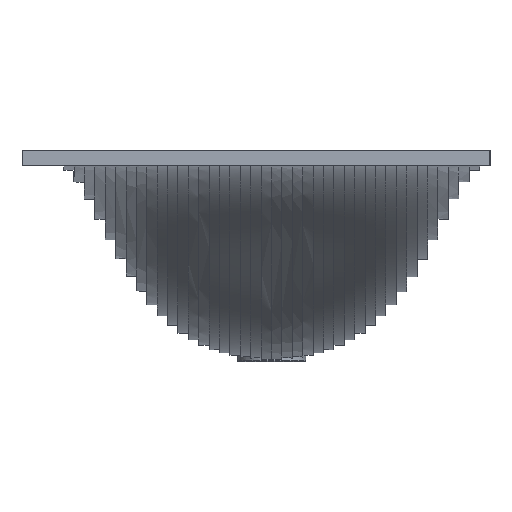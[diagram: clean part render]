
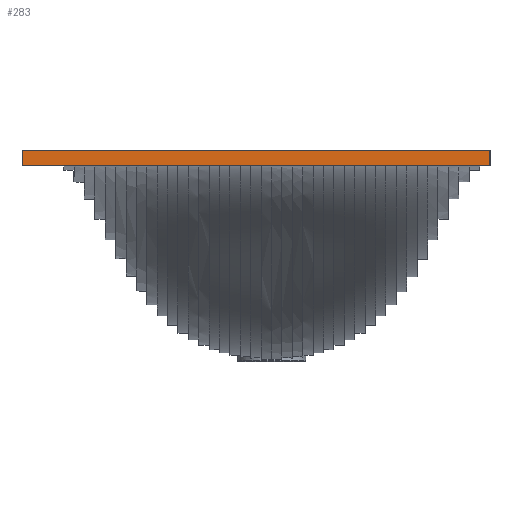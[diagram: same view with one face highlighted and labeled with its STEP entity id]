
A CAD part, left-side view. The second image highlights one B-rep face of the part: STEP entity #283.
In plain terms, the highlighted planar face has unit normal (-1, 0, 0).
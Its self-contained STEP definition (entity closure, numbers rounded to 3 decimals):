
#283=ADVANCED_FACE('',(#542),#3861,.T.);
#542=FACE_OUTER_BOUND('',#814,.T.);
#814=EDGE_LOOP('',(#1561,#1562,#1563,#1564));
#1561=ORIENTED_EDGE('',*,*,#2511,.T.);
#1562=ORIENTED_EDGE('',*,*,#2512,.T.);
#1563=ORIENTED_EDGE('',*,*,#2510,.F.);
#1564=ORIENTED_EDGE('',*,*,#2338,.F.);
#2338=EDGE_CURVE('',#3456,#3457,#2953,.T.);
#2510=EDGE_CURVE('',#3457,#3548,#3125,.T.);
#2511=EDGE_CURVE('',#3456,#3549,#3126,.T.);
#2512=EDGE_CURVE('',#3549,#3548,#3127,.T.);
#2953=B_SPLINE_CURVE_WITH_KNOTS('',1,(#27153,#27154),.UNSPECIFIED.,.F.,
 .F.,(2,2),(0.,450.),.UNSPECIFIED.);
#3125=B_SPLINE_CURVE_WITH_KNOTS('',1,(#27830,#27831),.UNSPECIFIED.,.F.,
 .F.,(2,2),(0.,15.),.UNSPECIFIED.);
#3126=B_SPLINE_CURVE_WITH_KNOTS('',1,(#27832,#27833),.UNSPECIFIED.,.F.,
 .F.,(2,2),(0.,15.),.UNSPECIFIED.);
#3127=B_SPLINE_CURVE_WITH_KNOTS('',1,(#27834,#27835),.UNSPECIFIED.,.F.,
 .F.,(2,2),(3000.,4000.),.UNSPECIFIED.);
#3456=VERTEX_POINT('',#26884);
#3457=VERTEX_POINT('',#26885);
#3548=VERTEX_POINT('',#26976);
#3549=VERTEX_POINT('',#26977);
#3861=PLANE('',#4104);
#4104=AXIS2_PLACEMENT_3D('',#6193,#4295,$);
#4295=DIRECTION('',(-1.,0.,0.));
#6193=CARTESIAN_POINT('',(40505.139,287.427,-8972.));
#26884=CARTESIAN_POINT('',(40505.139,287.427,-8972.));
#26885=CARTESIAN_POINT('',(40505.139,-162.573,-8972.));
#26976=CARTESIAN_POINT('',(40505.139,-162.573,-8987.));
#26977=CARTESIAN_POINT('',(40505.139,287.427,-8987.));
#27153=CARTESIAN_POINT('',(40505.139,287.427,-8972.));
#27154=CARTESIAN_POINT('',(40505.139,-162.573,-8972.));
#27830=CARTESIAN_POINT('',(40505.139,-162.573,-8972.));
#27831=CARTESIAN_POINT('',(40505.139,-162.573,-8987.));
#27832=CARTESIAN_POINT('',(40505.139,287.427,-8972.));
#27833=CARTESIAN_POINT('',(40505.139,287.427,-8987.));
#27834=CARTESIAN_POINT('',(40505.139,287.427,-8987.));
#27835=CARTESIAN_POINT('',(40505.139,-162.573,-8987.));
